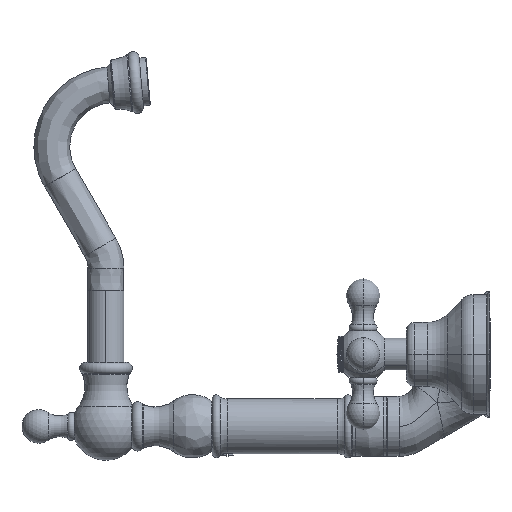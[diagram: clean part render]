
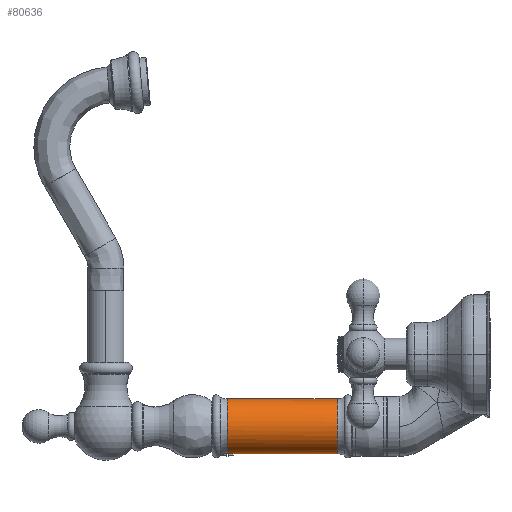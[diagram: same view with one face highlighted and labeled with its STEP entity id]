
A CAD part, left-side view. The second image highlights one B-rep face of the part: STEP entity #80636.
In plain terms, the highlighted cylindrical face has radius 13.75 mm (diameter 27.5 mm), a partial arc.
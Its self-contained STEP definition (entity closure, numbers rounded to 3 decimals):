
#60721=CARTESIAN_POINT('',(99.4,192.613,-36.));
#60722=DIRECTION('',(0.,1.,0.));
#60723=DIRECTION('',(-0.218,0.,-0.976));
#60724=AXIS2_PLACEMENT_3D('',#60721,#60722,#60723);
#60734=CARTESIAN_POINT('',(99.4,189.6,-49.75));
#60735=CARTESIAN_POINT('',(99.34,189.6,-49.75));
#60736=CARTESIAN_POINT('',(99.22,189.604,
-49.749));
#60737=CARTESIAN_POINT('',(99.041,189.62,
-49.746));
#60738=CARTESIAN_POINT('',(98.862,189.647,
-49.74));
#60739=CARTESIAN_POINT('',(98.686,189.684,
-49.732));
#60740=CARTESIAN_POINT('',(98.511,189.733,
-49.722));
#60741=CARTESIAN_POINT('',(98.34,189.792,
-49.709));
#60742=CARTESIAN_POINT('',(98.172,189.861,
-49.695));
#60743=CARTESIAN_POINT('',(98.008,189.941,
-49.68));
#60744=CARTESIAN_POINT('',(97.848,190.03,
-49.662));
#60745=CARTESIAN_POINT('',(97.695,190.129,
-49.644));
#60746=CARTESIAN_POINT('',(97.547,190.238,
-49.625));
#60747=CARTESIAN_POINT('',(97.406,190.356,
-49.605));
#60748=CARTESIAN_POINT('',(97.273,190.482,
-49.585));
#60749=CARTESIAN_POINT('',(97.147,190.616,
-49.564));
#60750=CARTESIAN_POINT('',(97.03,190.757,
-49.544));
#60751=CARTESIAN_POINT('',(96.922,190.906,
-49.525));
#60752=CARTESIAN_POINT('',(96.823,191.06,
-49.506));
#60753=CARTESIAN_POINT('',(96.734,191.22,
-49.489));
#60754=CARTESIAN_POINT('',(96.655,191.384,
-49.473));
#60755=CARTESIAN_POINT('',(96.587,191.552,
-49.459));
#60756=CARTESIAN_POINT('',(96.529,191.724,
-49.447));
#60757=CARTESIAN_POINT('',(96.481,191.899,
-49.437));
#60758=CARTESIAN_POINT('',(96.444,192.075,
-49.429));
#60759=CARTESIAN_POINT('',(96.418,192.254,
-49.423));
#60760=CARTESIAN_POINT('',(96.403,192.433,
-49.419));
#60761=CARTESIAN_POINT('',(96.4,192.553,
-49.419));
#60762=CARTESIAN_POINT('',(96.4,192.613,
-49.419));
#60764=DIRECTION('',(0.,-1.,0.));
#60765=VECTOR('',#60764,55.026);
#60766=CARTESIAN_POINT('',(99.4,192.613,-22.25));
#60767=LINE('',#60766,#60765);
#60768=DIRECTION('',(0.,1.,0.));
#60769=VECTOR('',#60768,52.013);
#60770=CARTESIAN_POINT('',(99.4,137.587,-49.75));
#60771=LINE('',#60770,#60769);
#60800=CARTESIAN_POINT('',(99.4,189.6,-49.75));
#61687=CARTESIAN_POINT('',(99.4,137.587,-36.));
#61688=DIRECTION('',(0.,1.,0.));
#61689=DIRECTION('',(0.,0.,-1.));
#61690=AXIS2_PLACEMENT_3D('',#61687,#61688,#61689);
#62088=CARTESIAN_POINT('',(99.4,192.613,-22.25));
#62089=VERTEX_POINT('',#62088);
#62090=CARTESIAN_POINT('',(99.4,137.587,-49.75));
#62091=CARTESIAN_POINT('',(99.4,137.587,-22.25));
#62092=VERTEX_POINT('',#62090);
#62093=VERTEX_POINT('',#62091);
#62357=VERTEX_POINT('',#60800);
#62363=VERTEX_POINT('',#60762);
#80621=CARTESIAN_POINT('',(99.4,197.65,-36.));
#80622=DIRECTION('',(0.,-1.,0.));
#80623=DIRECTION('',(0.,0.,-1.));
#80624=AXIS2_PLACEMENT_3D('',#80621,#80622,#80623);
#80625=CYLINDRICAL_SURFACE('',#80624,13.75);
#80626=ORIENTED_EDGE('',*,*,#80601,.T.);
#80627=ORIENTED_EDGE('',*,*,#80591,.T.);
#80629=ORIENTED_EDGE('',*,*,#80628,.T.);
#80631=ORIENTED_EDGE('',*,*,#80630,.F.);
#80633=ORIENTED_EDGE('',*,*,#80632,.T.);
#80634=EDGE_LOOP('',(#80626,#80627,#80629,#80631,#80633));
#80635=FACE_OUTER_BOUND('',#80634,.F.);
#80636=ADVANCED_FACE('',(#80635),#80625,.T.);
#60725=CIRCLE('',#60724,13.75);
#60763=B_SPLINE_CURVE_WITH_KNOTS('',3,(#60734,#60735,#60736,#60737,#60738,
#60739,#60740,#60741,#60742,#60743,#60744,#60745,#60746,#60747,#60748,#60749,
#60750,#60751,#60752,#60753,#60754,#60755,#60756,#60757,#60758,#60759,#60760,
#60761,#60762),.UNSPECIFIED.,.F.,.F.,(4,1,1,1,1,1,1,1,1,1,1,1,1,1,1,1,1,1,1,1,1,
1,1,1,1,1,4),(0.,0.038,0.077,0.115,
0.154,0.192,0.231,0.269,
0.308,0.346,0.385,0.423,
0.462,0.5,0.538,0.577,0.615,
0.654,0.692,0.731,0.769,
0.808,0.846,0.885,0.923,
0.962,1.),.UNSPECIFIED.);
#61691=CIRCLE('',#61690,13.75);
#80591=EDGE_CURVE('',#62363,#62089,#60725,.T.);
#80601=EDGE_CURVE('',#62357,#62363,#60763,.T.);
#80628=EDGE_CURVE('',#62089,#62093,#60767,.T.);
#80630=EDGE_CURVE('',#62092,#62093,#61691,.T.);
#80632=EDGE_CURVE('',#62092,#62357,#60771,.T.);
